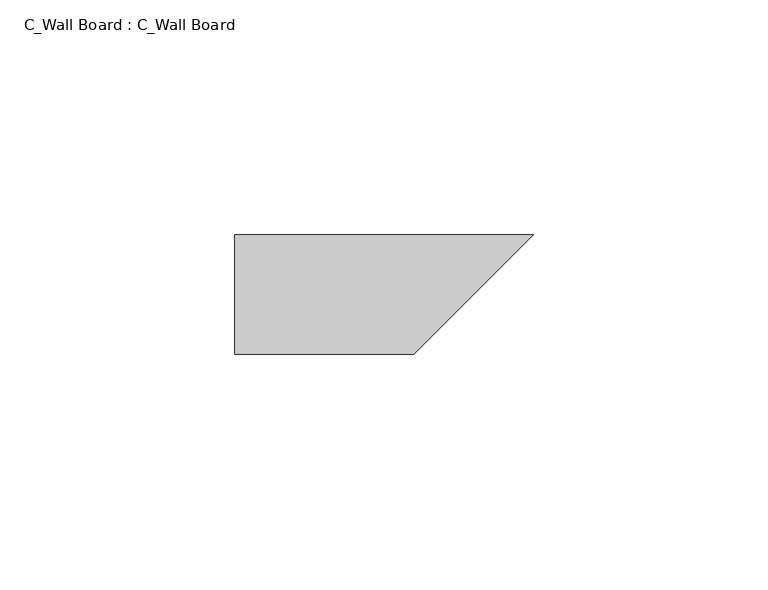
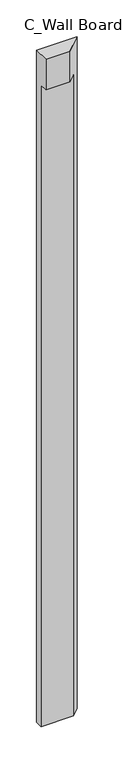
"""IFC4 building model written with IfcOpenShell, lengths in millimetres: proxy geometry, C_Wall Board : C_Wall Board."""

from ifc_helpers import new_model, si_unit, origin, place, context, project, spatial, faceted_brep, source, transform, mapped, element, save


def c_wall_board_c_wall_board_090922ad(model_context):
    return source(origin(), model_context, "Body", "Brep", [
        faceted_brep([(63.5, 0.0, 1117.6), (63.5, 0.0, 0.0), (0.0, 0.0, 0.0), (0.0, 0.0, 1117.6), (38.1, -25.4, 1117.6), (0.0, -25.4, 1117.6), (38.1, -25.4, 1066.8), (50.8, -12.7, 1066.8), (50.8, -12.7, 0.0), (0.0, -12.7, 0.0), (0.0, -12.7, 1066.8), (0.0, -25.4, 1066.8)], [[[0, 1, 2, 3]], [[4, 0, 3, 5]], [[1, 0, 4, 6, 7, 8]], [[3, 2, 9, 10, 11, 5]], [[8, 7, 10, 9]], [[1, 8, 9, 2]], [[6, 4, 5, 11]], [[7, 6, 11, 10]]]),
    ])


if __name__ == "__main__":
    model = new_model("IFC4")
    model_context = context("Model", 3, world=origin())
    ifc_project = project(units=[si_unit("LENGTHUNIT", "METRE", prefix="MILLI")], contexts=[model_context])
    site = spatial("IfcSite", under=ifc_project)
    building = spatial("IfcBuilding", under=site)
    placement = place(None, origin())
    c_wall_board_c_wall_board_shape = c_wall_board_c_wall_board_090922ad(model_context)
    element("IfcBuildingElementProxy", 1, Name="C_Wall Board : C_Wall Board", ObjectType="C_Wall Board : C_Wall Board", at=placement, inside=building, context=model_context, shape_type="MappedRepresentation", body=[
        mapped(c_wall_board_c_wall_board_shape, transform((0.0, 0.0, 0.0), x_axis=(1.0, 0.0, 0.0), y_axis=(0.0, 1.0, 0.0), z_axis=(0.0, 0.0, 1.0))),
    ])
    save(model, "model.ifc")
